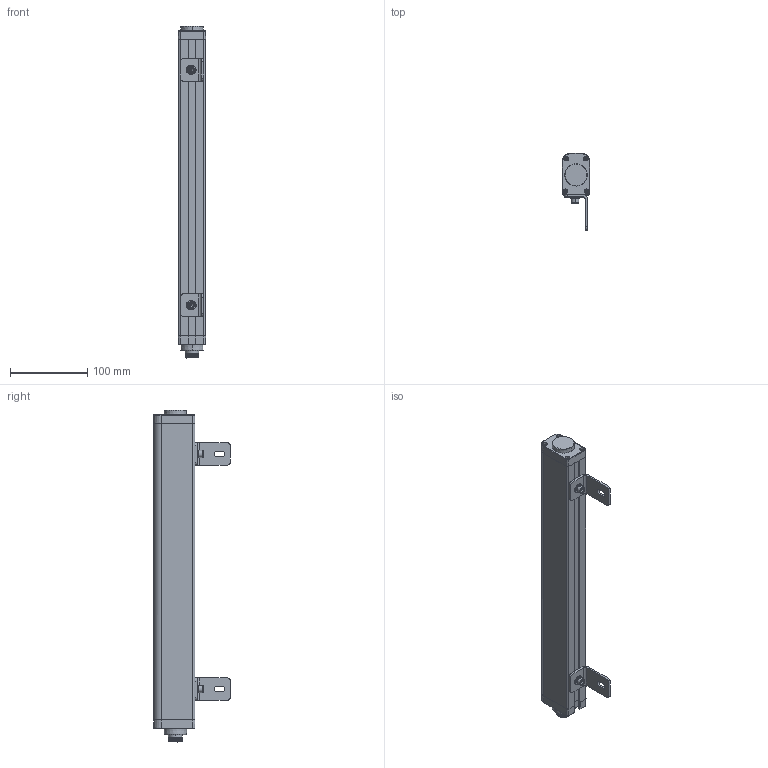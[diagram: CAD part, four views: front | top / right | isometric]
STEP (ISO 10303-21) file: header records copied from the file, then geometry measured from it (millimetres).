
FILE_DESCRIPTION((''),'2;1');
FILE_NAME('ESE8420_ASM','2021-07-12T14:49:00',('18720616900'),(''),'CREO PARAMETRIC BY PTC INC, 2019010','CREO PARAMETRIC BY PTC INC, 2019010','');
FILE_SCHEMA(('CONFIG_CONTROL_DESIGN'));
Length unit declared in the file: millimetre
Products named in the file (15): ESE--00; 000; ESE--000; HKCT2-1-SOLID1; HKCT11-1-SOLID1; 6_10001_ASM; ST-3-120001; L10001; M6-1-00; M6-1--00; M6-8--0001; 00; L1--0001_ASM; ESE8420_ASM
Assembly tree (22 placements, depth 3):
  ESE8420_ASM
    ESE--00
    000
    ESE--000
    ESE--000
    6_10001_ASM
      HKCT2-1-SOLID1
      HKCT11-1-SOLID1
    ST-3-120001  x8
    L1--0001_ASM  x2
      L10001
      M6-1-00
      M6-1--00
      M6-8--0001
      00
Bounding box: 35.3 x 99.3 x 430.58 mm (x, y, z)
Volume: 717960.9 mm3; surface area: 128049.2 mm2
Topology: 24 solids, 24 shells, 1203 faces, 3161 edges, 2022 vertices
Faces by surface type: plane 340, cylinder 306, cone 246, bspline 233, torus 64, sphere 14
Entity records: 41666 total; most frequent: CARTESIAN_POINT 27268, ORIENTED_EDGE 3088, DIRECTION 2720, EDGE_CURVE 1544, AXIS2_PLACEMENT_3D 1052, VERTEX_POINT 1019, EDGE_LOOP 661, VECTOR 616
